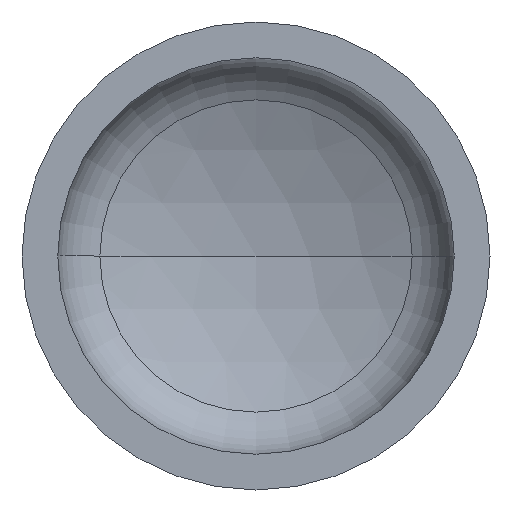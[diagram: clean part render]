
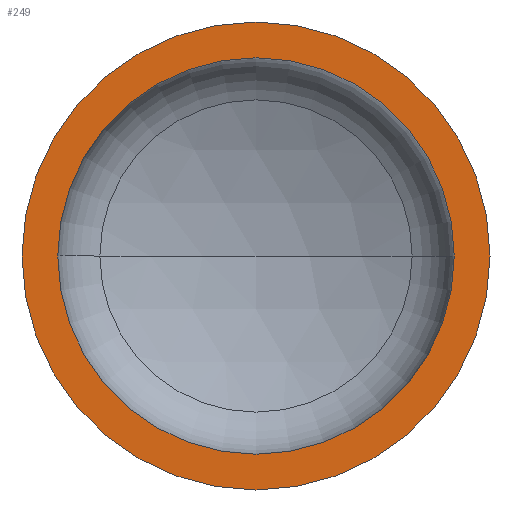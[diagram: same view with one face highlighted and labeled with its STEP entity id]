
A CAD part, front view. The second image highlights one B-rep face of the part: STEP entity #249.
In plain terms, the highlighted planar face has unit normal (0, -1, 0).
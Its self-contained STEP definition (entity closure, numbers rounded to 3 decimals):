
#1 = AXIS2_PLACEMENT_3D ( 'NONE', #277, #99, #305 ) ;
#24 = AXIS2_PLACEMENT_3D ( 'NONE', #252, #273, #271 ) ;
#29 = EDGE_LOOP ( 'NONE', ( #134, #167 ) ) ;
#43 = AXIS2_PLACEMENT_3D ( 'NONE', #208, #350, #374 ) ;
#51 = AXIS2_PLACEMENT_3D ( 'NONE', #199, #200, #338 ) ;
#52 = AXIS2_PLACEMENT_3D ( 'NONE', #323, #321, #320 ) ;
#62 = ORIENTED_EDGE ( 'NONE', *, *, #66, .F. ) ;
#65 = EDGE_CURVE ( 'NONE', #146, #103, #159, .T. ) ;
#66 = EDGE_CURVE ( 'NONE', #245, #84, #174, .T. ) ;
#84 = VERTEX_POINT ( 'NONE', #303 ) ;
#85 = ORIENTED_EDGE ( 'NONE', *, *, #396, .F. ) ;
#92 = CARTESIAN_POINT ( 'NONE',  ( -550., 0., 0. ) ) ;
#99 = DIRECTION ( 'NONE',  ( 0., -1., 0. ) ) ;
#102 = EDGE_LOOP ( 'NONE', ( #62, #85 ) ) ;
#103 = VERTEX_POINT ( 'NONE', #179 ) ;
#120 = FACE_OUTER_BOUND ( 'NONE', #29, .T. ) ;
#134 = ORIENTED_EDGE ( 'NONE', *, *, #169, .T. ) ;
#146 = VERTEX_POINT ( 'NONE', #92 ) ;
#159 = CIRCLE ( 'NONE', #52, 550. ) ;
#167 = ORIENTED_EDGE ( 'NONE', *, *, #65, .T. ) ;
#169 = EDGE_CURVE ( 'NONE', #103, #146, #341, .T. ) ;
#174 = CIRCLE ( 'NONE', #51, 466. ) ;
#179 = CARTESIAN_POINT ( 'NONE',  ( 550., 0., 0. ) ) ;
#199 = CARTESIAN_POINT ( 'NONE',  ( 0., 0., 0. ) ) ;
#200 = DIRECTION ( 'NONE',  ( 0., -1., 0. ) ) ;
#208 = CARTESIAN_POINT ( 'NONE',  ( 0., 0., 0. ) ) ;
#210 = CARTESIAN_POINT ( 'NONE',  ( 466., 0., 0. ) ) ;
#236 = CIRCLE ( 'NONE', #1, 466. ) ;
#245 = VERTEX_POINT ( 'NONE', #210 ) ;
#249 = ADVANCED_FACE ( 'NONE', ( #391, #120 ), #282, .F. ) ;
#252 = CARTESIAN_POINT ( 'NONE',  ( -550., 0., 0. ) ) ;
#271 = DIRECTION ( 'NONE',  ( -1., 0., 0. ) ) ;
#273 = DIRECTION ( 'NONE',  ( 0., 1., 0. ) ) ;
#277 = CARTESIAN_POINT ( 'NONE',  ( 0., 0., 0. ) ) ;
#282 = PLANE ( 'NONE',  #24 ) ;
#303 = CARTESIAN_POINT ( 'NONE',  ( -466., 0., 0. ) ) ;
#305 = DIRECTION ( 'NONE',  ( 1., 0., 0. ) ) ;
#320 = DIRECTION ( 'NONE',  ( 1., 0., 0. ) ) ;
#321 = DIRECTION ( 'NONE',  ( 0., -1., 0. ) ) ;
#323 = CARTESIAN_POINT ( 'NONE',  ( 0., 0., 0. ) ) ;
#338 = DIRECTION ( 'NONE',  ( 1., 0., 0. ) ) ;
#341 = CIRCLE ( 'NONE', #43, 550. ) ;
#350 = DIRECTION ( 'NONE',  ( 0., -1., 0. ) ) ;
#374 = DIRECTION ( 'NONE',  ( 1., 0., 0. ) ) ;
#391 = FACE_BOUND ( 'NONE', #102, .T. ) ;
#396 = EDGE_CURVE ( 'NONE', #84, #245, #236, .T. ) ;
